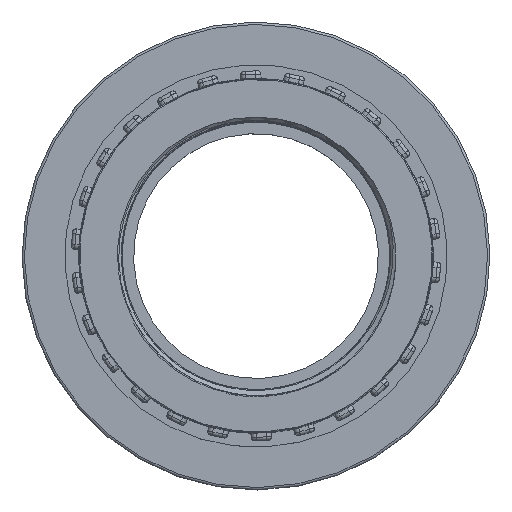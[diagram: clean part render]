
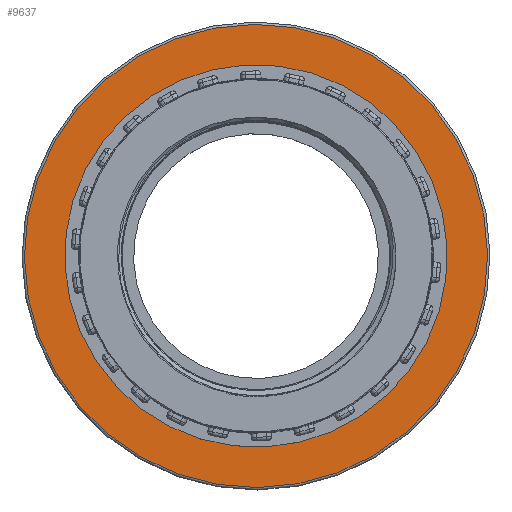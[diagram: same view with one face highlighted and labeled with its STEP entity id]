
A CAD part, top view. The second image highlights one B-rep face of the part: STEP entity #9637.
In plain terms, the highlighted planar face has unit normal (0, 0, 1).
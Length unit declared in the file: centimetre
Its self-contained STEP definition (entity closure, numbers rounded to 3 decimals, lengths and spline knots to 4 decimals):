
#1926=FACE_BOUND('',#2713,.T.);
#2164=FACE_OUTER_BOUND('',#2712,.T.);
#2712=EDGE_LOOP('',(#7105));
#2713=EDGE_LOOP('',(#7106));
#3254=CIRCLE('',#10370,4.9);
#3255=CIRCLE('',#10371,4.045);
#3985=VERTEX_POINT('',#15868);
#3986=VERTEX_POINT('',#15870);
#5091=EDGE_CURVE('',#3985,#3985,#3254,.T.);
#5092=EDGE_CURVE('',#3986,#3986,#3255,.T.);
#7105=ORIENTED_EDGE('',*,*,#5091,.F.);
#7106=ORIENTED_EDGE('',*,*,#5092,.T.);
#8768=PLANE('',#10369);
#9637=ADVANCED_FACE('',(#2164,#1926),#8768,.T.);
#10369=AXIS2_PLACEMENT_3D('',#15867,#12120,#12121);
#10370=AXIS2_PLACEMENT_3D('',#15869,#12122,#12123);
#10371=AXIS2_PLACEMENT_3D('',#15871,#12124,#12125);
#12120=DIRECTION('center_axis',(0.,0.,
1.));
#12121=DIRECTION('ref_axis',(-0.493,-0.87,0.));
#12122=DIRECTION('center_axis',(0.,0.,
-1.));
#12123=DIRECTION('ref_axis',(0.87,-0.493,0.));
#12124=DIRECTION('center_axis',(0.,0.,
-1.));
#12125=DIRECTION('ref_axis',(-0.684,0.729,0.));
#15867=CARTESIAN_POINT('Origin',(-4.3053,2.4427,2.3));
#15868=CARTESIAN_POINT('',(-4.2618,2.418,2.3));
#15869=CARTESIAN_POINT('Origin',(0.,0.,
2.3));
#15870=CARTESIAN_POINT('',(2.7688,-2.9489,2.3));
#15871=CARTESIAN_POINT('Origin',(0.,0.,
2.3));
